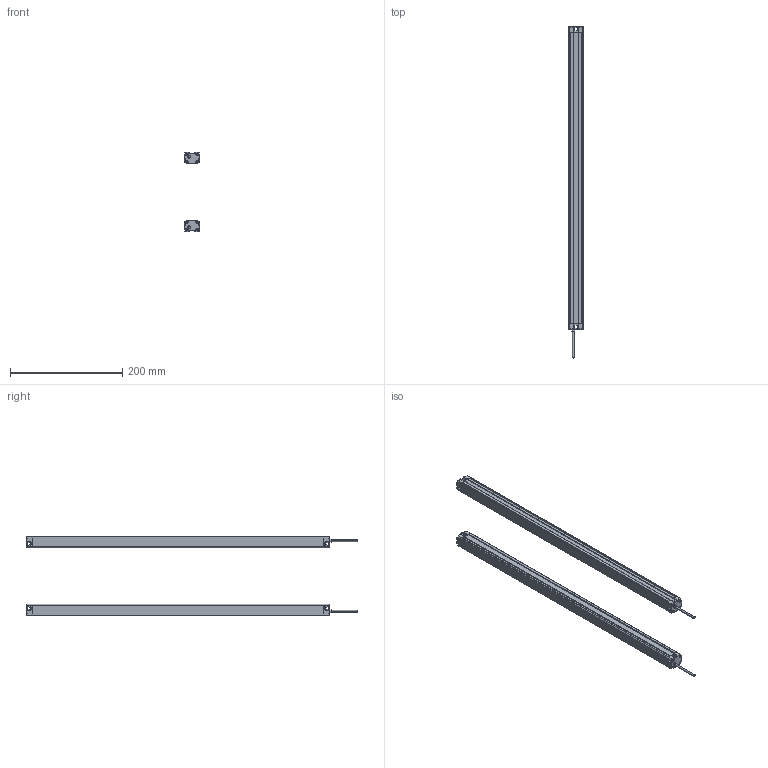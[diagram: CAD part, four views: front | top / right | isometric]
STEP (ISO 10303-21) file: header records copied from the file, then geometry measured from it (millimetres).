
FILE_DESCRIPTION (( 'STEP AP214' ), '1' );
FILE_NAME ('MTC2620.STEP', '2022-08-02T08:59:07', ( '' ), ( '' ), 'SwSTEP 2.0', 'SolidWorks 2018', '' );
FILE_SCHEMA (( 'AUTOMOTIVE_DESIGN' ));
Length unit declared in the file: millimetre
Products named in the file (5): P01^MTC; MTC waike^MTC; MTC2620; P02^MTC; 噩砃P02^MTC
Assembly tree (6 placements, depth 2):
  MTC2620
    MTC waike^MTC  x2
    P01^MTC  x2
    P02^MTC
    噩砃P02^MTC
Bounding box: 25 x 592 x 141.4 mm (x, y, z)
Volume: 183265 mm3; surface area: 249027.4 mm2
Topology: 8 solids, 8 shells, 480 faces, 1396 edges, 924 vertices
Faces by surface type: plane 272, cylinder 208
Entity records: 10886 total; most frequent: DIRECTION 1881, CARTESIAN_POINT 1878, ORIENTED_EDGE 1846, EDGE_CURVE 923, AXIS2_PLACEMENT_3D 637, VERTEX_POINT 610, LINE 607, VECTOR 607
